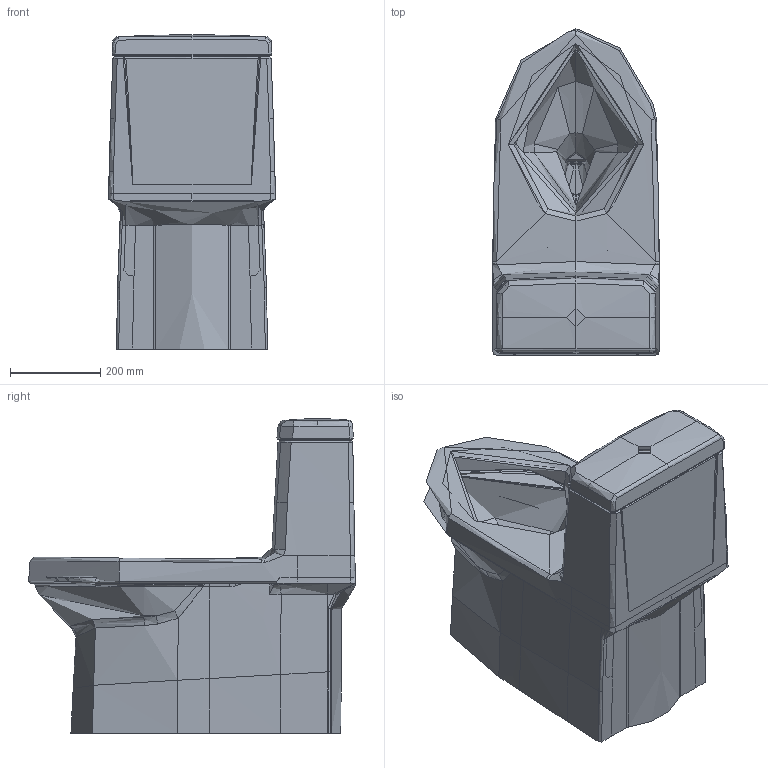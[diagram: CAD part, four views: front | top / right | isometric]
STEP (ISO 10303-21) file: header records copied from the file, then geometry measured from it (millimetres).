
FILE_DESCRIPTION(/* description */ (''),/* implementation_level */ '2;1');
FILE_NAME(/* name */ '4607AS.stp',/* time_stamp */ '2021-03-29T14:03:43+02:00',/* author */ (''),/* organization */ (''),/* preprocessor_version */ 'ST-DEVELOPER v16.7',/* originating_system */ 'SIEMENS PLM Software NX 1863',/* authorisation */ '');
FILE_SCHEMA (('AUTOMOTIVE_DESIGN { 1 0 10303 214 3 1 1 1 }'));
Bounding box: 368.72 x 722.33 x 695.67 mm (x, y, z)
Volume: 55094678.2 mm3; surface area: 2465887.3 mm2
Topology: 3 solids, 4 shells, 1571 faces, 4212 edges, 2530 vertices
Faces by surface type: bspline 1332, plane 103, cylinder 61, extrusion 45, sphere 30
Full cylindrical faces by diameter (mm): 6 x30, 15 x2, 40 x1
Entity records: 186534 total; most frequent: CRTPNT 160539, ORNEDG 8084, EDGCRV 4042, BSCWK 2943, VRTPNT 2488, EDGLP 1656, ADVFC 1571, FCOTBN 1506
